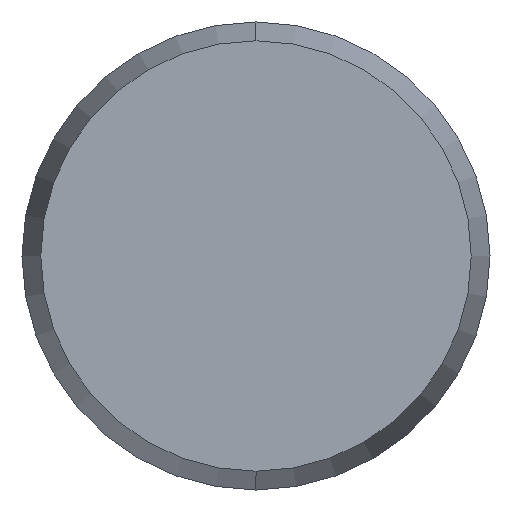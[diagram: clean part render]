
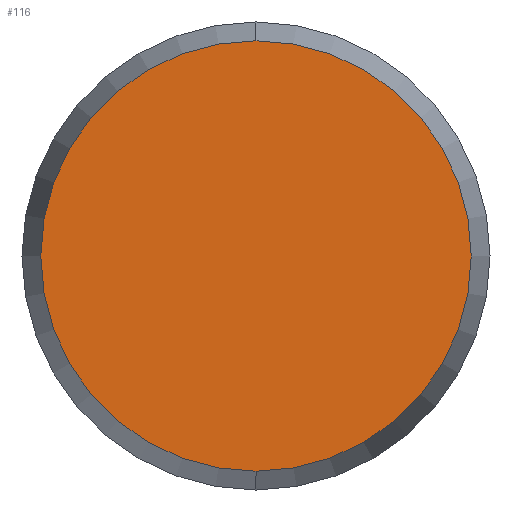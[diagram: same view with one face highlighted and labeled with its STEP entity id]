
A CAD part, left-side view. The second image highlights one B-rep face of the part: STEP entity #116.
In plain terms, the highlighted planar face has unit normal (-1, 0, 0).
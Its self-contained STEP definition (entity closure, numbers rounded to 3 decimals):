
#113 = EDGE_CURVE ( 'NONE', #127, #126, #192, .T. ) ;
#116 = ADVANCED_FACE ( 'NONE', ( #193 ), #181, .F. ) ;
#117 = EDGE_LOOP ( 'NONE', ( #118, #119 ) ) ;
#118 = ORIENTED_EDGE ( 'NONE', *, *, #125, .F. ) ;
#119 = ORIENTED_EDGE ( 'NONE', *, *, #113, .F. ) ;
#125 = EDGE_CURVE ( 'NONE', #126, #127, #215, .T. ) ;
#126 = VERTEX_POINT ( 'NONE', #214 ) ;
#127 = VERTEX_POINT ( 'NONE', #230 ) ;
#176 = DIRECTION ( 'NONE',  ( 0., 0., -1. ) ) ;
#177 = DIRECTION ( 'NONE',  ( 1., 0., 0. ) ) ;
#178 = CARTESIAN_POINT ( 'NONE',  ( -7., 0., 0. ) ) ;
#180 = AXIS2_PLACEMENT_3D ( 'NONE', #178, #177, #176 ) ;
#181 = PLANE ( 'NONE',  #180 ) ;
#182 = DIRECTION ( 'NONE',  ( 0., 0., -1. ) ) ;
#183 = DIRECTION ( 'NONE',  ( 1., 0., 0. ) ) ;
#190 = CARTESIAN_POINT ( 'NONE',  ( -7., 0., 0. ) ) ;
#191 = AXIS2_PLACEMENT_3D ( 'NONE', #190, #183, #182 ) ;
#192 = CIRCLE ( 'NONE', #191, 4.598 ) ;
#193 = FACE_OUTER_BOUND ( 'NONE', #117, .T. ) ;
#207 = AXIS2_PLACEMENT_3D ( 'NONE', #211, #213, #212 ) ;
#211 = CARTESIAN_POINT ( 'NONE',  ( -7., 0., 0. ) ) ;
#212 = DIRECTION ( 'NONE',  ( 0., 0., -1. ) ) ;
#213 = DIRECTION ( 'NONE',  ( 1., 0., 0. ) ) ;
#214 = CARTESIAN_POINT ( 'NONE',  ( -7., 0., 4.598 ) ) ;
#215 = CIRCLE ( 'NONE', #207, 4.598 ) ;
#230 = CARTESIAN_POINT ( 'NONE',  ( -7., 0., -4.598 ) ) ;
